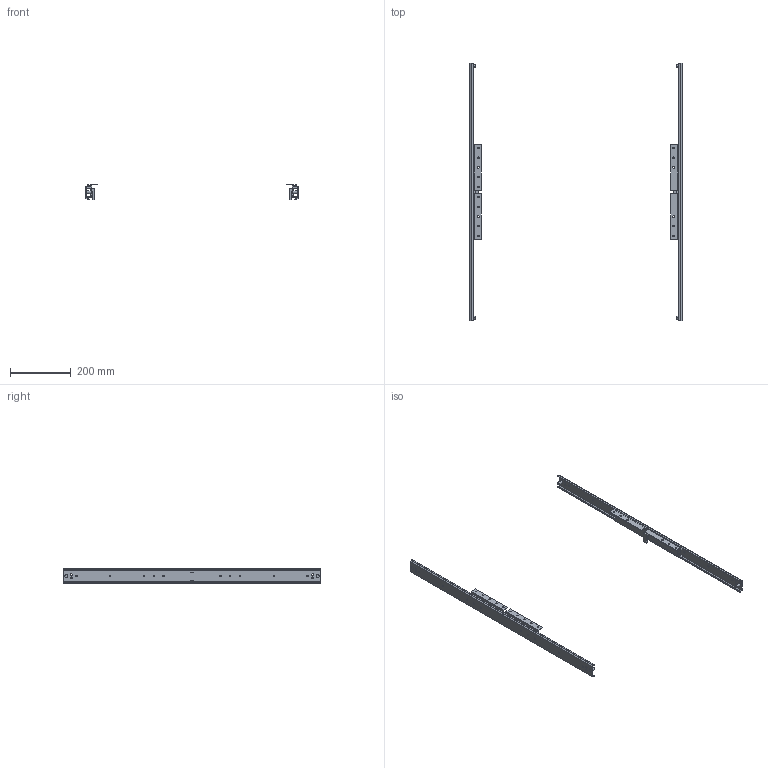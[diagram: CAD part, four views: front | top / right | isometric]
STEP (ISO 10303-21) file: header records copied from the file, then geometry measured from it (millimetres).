
FILE_DESCRIPTION( ( '' ), '1' );
FILE_NAME( 'D:/HETTCAD 2014/DATA TRANSFER/AUTOCAD EXPORT/SENT/Sheet m_6/sent/9131984/9079740.stp', '2014-06-20T06:13:38', ( '' ), ( '' ), ' ', ' ', ' ' );
FILE_SCHEMA( ( 'CONFIG_CONTROL_DESIGN' ) );
Length unit declared in the file: millimetre
Products named in the file (2): 1; 2
Bounding box: 700 x 850 x 50.9 mm (x, y, z)
Volume: 354150.2 mm3; surface area: 326103 mm2
Topology: 2 solids, 2 shells, 244 faces, 692 edges, 456 vertices
Faces by surface type: plane 136, cylinder 108
Entity records: 8216 total; most frequent: DIRECTION 1400, CARTESIAN_POINT 1394, ORIENTED_EDGE 1384, EDGE_CURVE 692, LINE 476, VECTOR 476, AXIS2_PLACEMENT_3D 462, VERTEX_POINT 456
